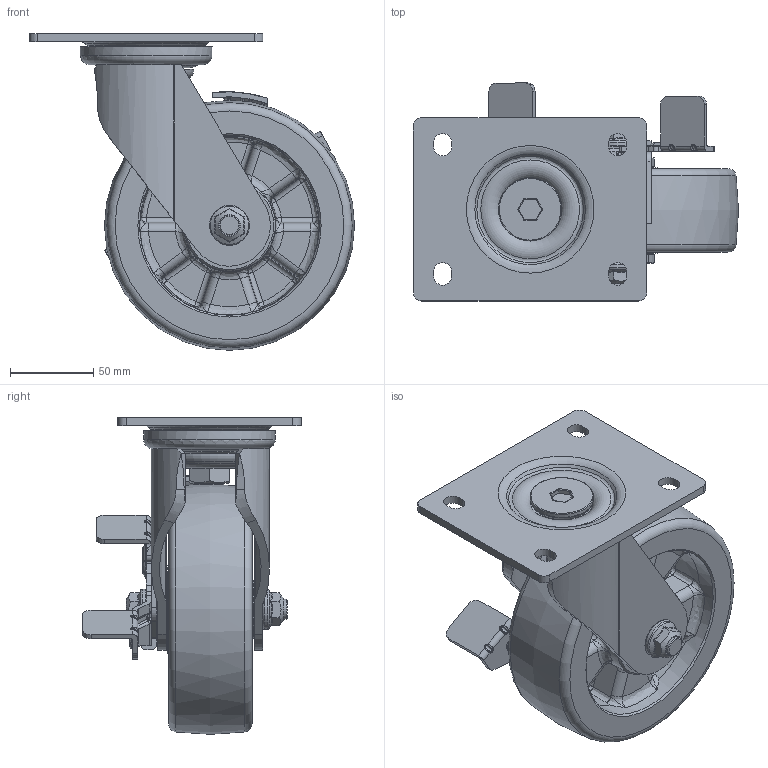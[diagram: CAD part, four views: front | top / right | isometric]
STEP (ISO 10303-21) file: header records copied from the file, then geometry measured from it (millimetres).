
FILE_DESCRIPTION((''),'2;1');
FILE_NAME('C:\Documents and Settings\Administrator\바탕 화면\3D STEP\PMW-SERIES\PMW-150\PMW-150-BSF.stp','2010-12-27T15:06:30',('Administrator'),(''),'Autodesk Inventor 2009','Autodesk Inventor 2009','');
FILE_SCHEMA(('AUTOMOTIVE_DESIGN { 1 0 10303 214 1 1 1 1 }'));
Length unit declared in the file: millimetre
Products named in the file (1): PMW-150-BSF
Bounding box: 195 x 131 x 190 mm (x, y, z)
Volume: 806391.2 mm3; surface area: 212117.9 mm2
Topology: 5 solids, 7 shells, 980 faces, 2382 edges, 1419 vertices
Faces by surface type: bspline 385, cylinder 263, plane 234, cone 51, torus 47
Full cylindrical faces by diameter (mm): 12 x1, 15 x2, 15.2 x2, 16 x2, 18 x2, 21.5 x1, 24 x2, 30.5 x2, 35 x2, 35.2 x2, 38 x1, 69 x1, 79 x1
Entity records: 51560 total; most frequent: CARTESIAN_POINT 30752, ORIENTED_EDGE 4470, DIRECTION 4037, EDGE_CURVE 2235, AXIS2_PLACEMENT_3D 1682, VERTEX_POINT 1383, EDGE_LOOP 1134, FACE_OUTER_BOUND 978
